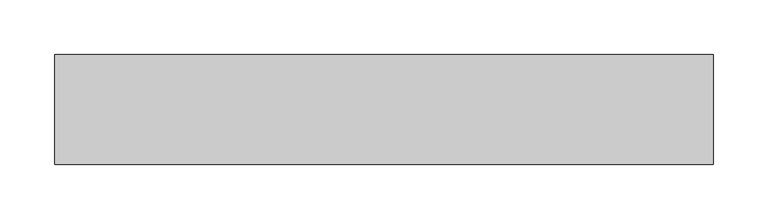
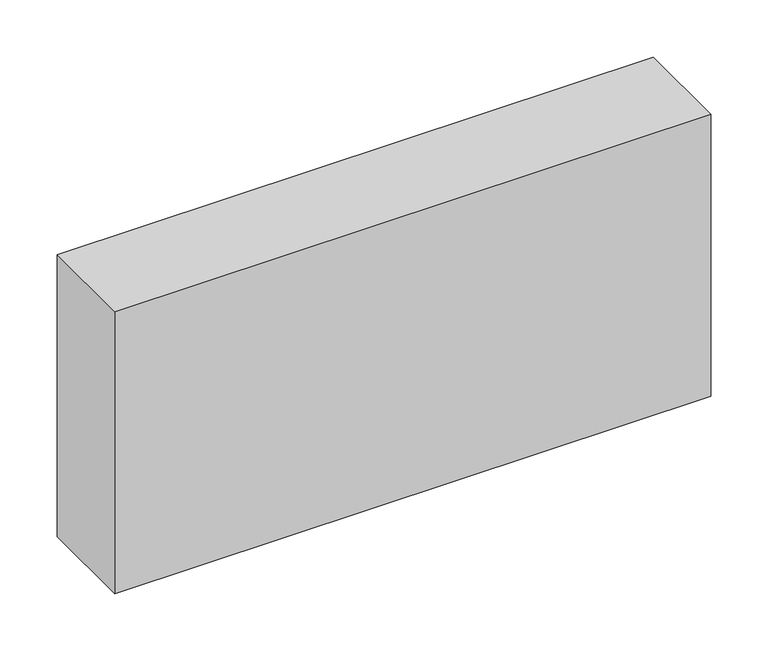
"""IFC4 building model written with IfcOpenShell, lengths in millimetres: proxy geometry, Módulo de Vedação de Concreto Celular - Celucon : MVCC 10x30x60cm (L x A x C)."""

from ifc_helpers import new_model, si_unit, origin, origin_with_axes, place, context, project, spatial, polyline, outline, extrude, source, transform, mapped, element, save


def generic_models_1ec5af48(model_context):
    return source(origin(), model_context, "Body", "SweptSolid", [
        extrude(outline(polyline([(300.0, 50.0), (300.0, -50.0), (-300.0, -50.0), (-300.0, 50.0), (300.0, 50.0)])), origin_with_axes(), (0.0, 0.0, 1.0), 300.0),
    ])


if __name__ == "__main__":
    model = new_model("IFC4")
    model_context = context("Model", 3, world=origin())
    ifc_project = project(units=[si_unit("LENGTHUNIT", "METRE", prefix="MILLI")], contexts=[model_context])
    site = spatial("IfcSite", under=ifc_project)
    building = spatial("IfcBuilding", under=site)
    placement = place(None, origin())
    generic_models_shape = generic_models_1ec5af48(model_context)
    element("IfcBuildingElementProxy", 1, Name="Módulo de Vedação de Concreto Celular - Celucon : MVCC 10x30x60cm (L x A x C)", ObjectType="Módulo de Vedação de Concreto Celular - Celucon : MVCC 10x30x60cm (L x A x C)", at=placement, inside=building, context=model_context, shape_type="MappedRepresentation", body=[
        mapped(generic_models_shape, transform((0.0, 0.0, 0.0), x_axis=(1.0, 0.0, 0.0), y_axis=(0.0, 1.0, 0.0), z_axis=(0.0, 0.0, 1.0))),
    ])
    save(model, "model.ifc")
